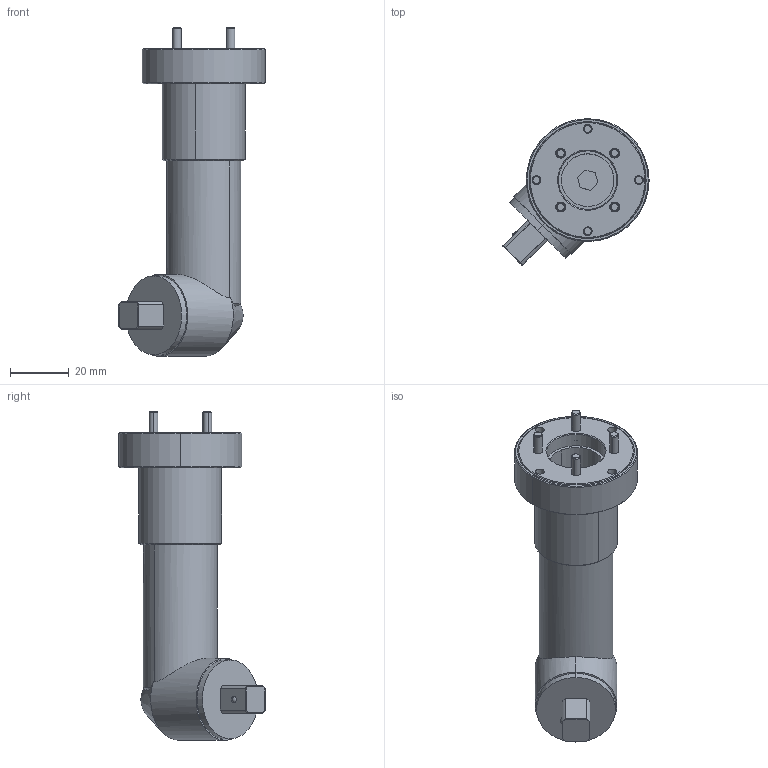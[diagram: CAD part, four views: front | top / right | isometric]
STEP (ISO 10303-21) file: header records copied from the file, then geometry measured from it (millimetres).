
FILE_DESCRIPTION (( 'STEP AP214' ), '1' );
FILE_NAME ('Testina HD10 PL15 .STEP', '2015-12-10T12:49:08', ( '' ), ( '' ), 'SwSTEP 2.0', 'SolidWorks 2015', '' );
FILE_SCHEMA (( 'AUTOMOTIVE_DESIGN' ));
Length unit declared in the file: millimetre
Products named in the file (1): Testina HD10 PL15 
Bounding box: 49.99 x 49.99 x 112.4 mm (x, y, z)
Volume: 66402.1 mm3; surface area: 24157 mm2
Topology: 12 solids, 12 shells, 390 faces, 879 edges, 520 vertices
Faces by surface type: plane 164, cylinder 124, cone 52, torus 38, bspline 12
Entity records: 15498 total; most frequent: CARTESIAN_POINT 2246, DIRECTION 1973, ORIENTED_EDGE 1710, EDGE_CURVE 855, AXIS2_PLACEMENT_3D 779, VERTEX_POINT 520, EDGE_LOOP 451, VECTOR 415
